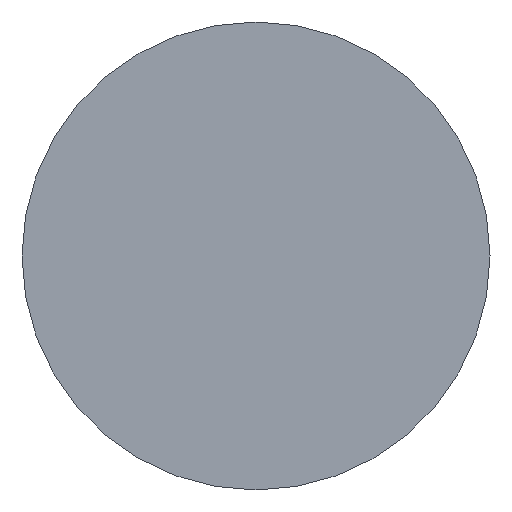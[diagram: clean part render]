
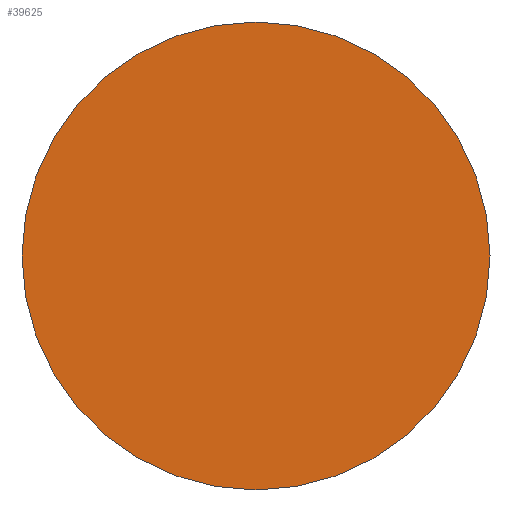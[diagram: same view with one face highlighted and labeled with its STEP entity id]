
A CAD part, left-side view. The second image highlights one B-rep face of the part: STEP entity #39625.
In plain terms, the highlighted planar face has unit normal (-1, 0, 0).
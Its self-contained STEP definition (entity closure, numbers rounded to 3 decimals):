
#143 = CARTESIAN_POINT ( 'NONE',  ( -55.75, 0., 0. ) ) ;
#909 = VERTEX_POINT ( 'NONE', #46284 ) ;
#3685 = CARTESIAN_POINT ( 'NONE',  ( -55.75, 0., 0. ) ) ;
#4402 = VERTEX_POINT ( 'NONE', #7433 ) ;
#4481 = DIRECTION ( 'NONE',  ( 0., 0.557, -0.83 ) ) ;
#7433 = CARTESIAN_POINT ( 'NONE',  ( -55.75, 0., 29.3 ) ) ;
#7942 = CIRCLE ( 'NONE', #30173, 29.3 ) ;
#8015 = DIRECTION ( 'NONE',  ( 0., 0., 1. ) ) ;
#8636 = DIRECTION ( 'NONE',  ( 1., 0., 0. ) ) ;
#12312 = AXIS2_PLACEMENT_3D ( 'NONE', #3685, #33879, #8015 ) ;
#18564 = EDGE_LOOP ( 'NONE', ( #24417, #31294 ) ) ;
#24417 = ORIENTED_EDGE ( 'NONE', *, *, #28648, .F. ) ;
#28648 = EDGE_CURVE ( 'NONE', #4402, #909, #7942, .T. ) ;
#30173 = AXIS2_PLACEMENT_3D ( 'NONE', #34482, #8636, #38808 ) ;
#30344 = DIRECTION ( 'NONE',  ( 1., 0., 0. ) ) ;
#31294 = ORIENTED_EDGE ( 'NONE', *, *, #32618, .F. ) ;
#32618 = EDGE_CURVE ( 'NONE', #909, #4402, #45101, .T. ) ;
#33699 = PLANE ( 'NONE',  #12312 ) ;
#33879 = DIRECTION ( 'NONE',  ( -1., 0., 0. ) ) ;
#34482 = CARTESIAN_POINT ( 'NONE',  ( -55.75, 0., 0. ) ) ;
#38808 = DIRECTION ( 'NONE',  ( 0., 0.557, -0.83 ) ) ;
#39625 = ADVANCED_FACE ( 'NONE', ( #40291 ), #33699, .T. ) ;
#40291 = FACE_OUTER_BOUND ( 'NONE', #18564, .T. ) ;
#43696 = AXIS2_PLACEMENT_3D ( 'NONE', #143, #30344, #4481 ) ;
#45101 = CIRCLE ( 'NONE', #43696, 29.3 ) ;
#46284 = CARTESIAN_POINT ( 'NONE',  ( -55.75, 0., -29.3 ) ) ;
